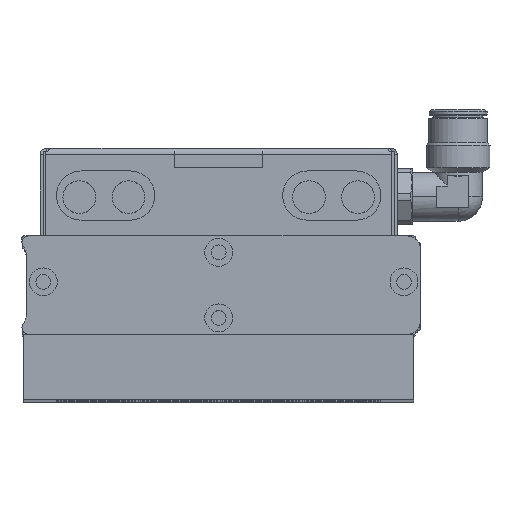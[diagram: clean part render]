
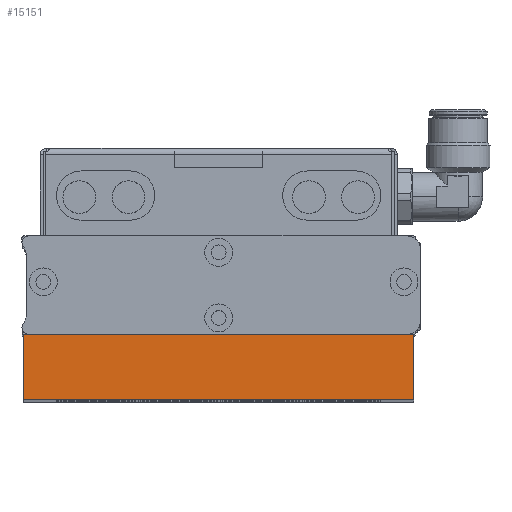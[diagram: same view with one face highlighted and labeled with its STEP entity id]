
A CAD part, top view. The second image highlights one B-rep face of the part: STEP entity #15151.
In plain terms, the highlighted planar face has unit normal (0, 0, 1).
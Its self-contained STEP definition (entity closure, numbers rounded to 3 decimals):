
#153 = VERTEX_POINT ( 'NONE', #3925 ) ;
#1712 = ORIENTED_EDGE ( 'NONE', *, *, #21775, .F. ) ;
#2375 = DIRECTION ( 'NONE',  ( 0., 1., 0. ) ) ;
#3118 = VERTEX_POINT ( 'NONE', #16463 ) ;
#3925 = CARTESIAN_POINT ( 'NONE',  ( -82.6, -51.3, 202. ) ) ;
#5009 = CARTESIAN_POINT ( 'NONE',  ( -82.6, -51.3, 202. ) ) ;
#7305 = CARTESIAN_POINT ( 'NONE',  ( -82.6, -51.3, 202. ) ) ;
#7468 = EDGE_CURVE ( 'NONE', #11813, #3118, #17771, .T. ) ;
#8760 = EDGE_CURVE ( 'NONE', #20844, #3118, #10251, .T. ) ;
#9815 = DIRECTION ( 'NONE',  ( 0., -1., 0. ) ) ;
#10251 = LINE ( 'NONE', #20502, #19879 ) ;
#10307 = EDGE_CURVE ( 'NONE', #153, #20844, #11277, .T. ) ;
#10908 = DIRECTION ( 'NONE',  ( 0., 0., -1. ) ) ;
#11277 = LINE ( 'NONE', #5009, #20867 ) ;
#11357 = VECTOR ( 'NONE', #20767, 1000. ) ;
#11813 = VERTEX_POINT ( 'NONE', #19905 ) ;
#11861 = ORIENTED_EDGE ( 'NONE', *, *, #10307, .T. ) ;
#11919 = DIRECTION ( 'NONE',  ( 0., -1., 0. ) ) ;
#14805 = AXIS2_PLACEMENT_3D ( 'NONE', #17814, #10908, #2375 ) ;
#15151 = ADVANCED_FACE ( 'NONE', ( #21502 ), #21131, .F. ) ;
#15205 = ORIENTED_EDGE ( 'NONE', *, *, #7468, .F. ) ;
#15908 = VECTOR ( 'NONE', #9815, 1000. ) ;
#16107 = LINE ( 'NONE', #7305, #11357 ) ;
#16158 = CARTESIAN_POINT ( 'NONE',  ( -82.6, -71.3, 202. ) ) ;
#16463 = CARTESIAN_POINT ( 'NONE',  ( 36.4, -71.3, 202. ) ) ;
#17771 = LINE ( 'NONE', #21612, #15908 ) ;
#17814 = CARTESIAN_POINT ( 'NONE',  ( -82.6, -51.3, 202. ) ) ;
#19879 = VECTOR ( 'NONE', #20432, 1000. ) ;
#19905 = CARTESIAN_POINT ( 'NONE',  ( 36.4, -51.3, 202. ) ) ;
#20432 = DIRECTION ( 'NONE',  ( 1., 0., 0. ) ) ;
#20502 = CARTESIAN_POINT ( 'NONE',  ( -82.6, -71.3, 202. ) ) ;
#20767 = DIRECTION ( 'NONE',  ( 1., 0., 0. ) ) ;
#20844 = VERTEX_POINT ( 'NONE', #16158 ) ;
#20867 = VECTOR ( 'NONE', #11919, 1000. ) ;
#21131 = PLANE ( 'NONE',  #14805 ) ;
#21502 = FACE_OUTER_BOUND ( 'NONE', #21514, .T. ) ;
#21514 = EDGE_LOOP ( 'NONE', ( #21685, #15205, #1712, #11861 ) ) ;
#21612 = CARTESIAN_POINT ( 'NONE',  ( 36.4, -51.3, 202. ) ) ;
#21685 = ORIENTED_EDGE ( 'NONE', *, *, #8760, .T. ) ;
#21775 = EDGE_CURVE ( 'NONE', #153, #11813, #16107, .T. ) ;
